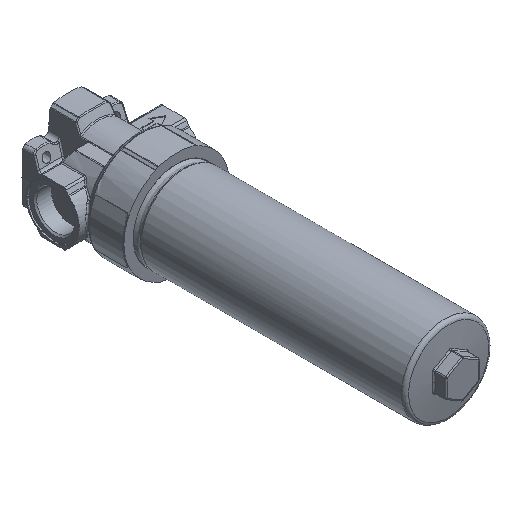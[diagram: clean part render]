
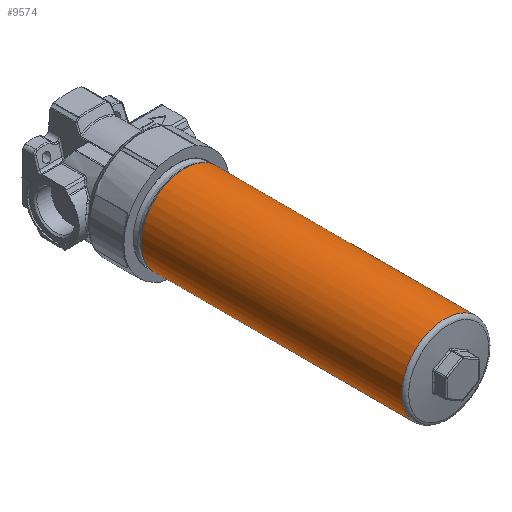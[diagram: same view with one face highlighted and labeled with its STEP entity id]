
A CAD part, isometric view. The second image highlights one B-rep face of the part: STEP entity #9574.
In plain terms, the highlighted free-form (B-spline) face has degree [2, 1] with [7, 2] control points.
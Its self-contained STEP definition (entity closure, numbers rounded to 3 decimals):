
#9464=CARTESIAN_POINT('V492',(-35.0,-220.024,0.0));
#9465=VERTEX_POINT('V492',#9464);
#9479=CARTESIAN_POINT('E842',(-35.0,-220.024,0.0));
#9480=CARTESIAN_POINT('E842',(-35.0,-220.024,
   1.718));
#9481=CARTESIAN_POINT('E842',(-34.746,
   -220.024,5.156));
#9482=CARTESIAN_POINT('E842',(-33.613,
   -220.024,10.199));
#9483=CARTESIAN_POINT('E842',(-31.752,
   -220.024,15.023));
#9484=CARTESIAN_POINT('E842',(-29.204,
   -220.024,19.52));
#9485=CARTESIAN_POINT('E842',(-26.023,
   -220.024,23.595));
#9486=CARTESIAN_POINT('E842',(-22.278,
   -220.024,27.159));
#9487=CARTESIAN_POINT('E842',(-18.05,
   -220.024,30.134));
#9488=CARTESIAN_POINT('E842',(-13.018,
   -220.024,32.666));
#9489=CARTESIAN_POINT('E842',(-7.181,
   -220.024,34.464));
#9490=CARTESIAN_POINT('E842',(-0.65,
   -220.024,35.199));
#9491=CARTESIAN_POINT('E842',(5.904,-220.024,
   34.706));
#9492=CARTESIAN_POINT('E842',(12.515,
   -220.024,32.933));
#9493=CARTESIAN_POINT('E842',(18.9,
   -220.024,29.766));
#9494=CARTESIAN_POINT('E842',(24.569,
   -220.024,25.266));
#9495=CARTESIAN_POINT('E842',(29.104,
   -220.024,19.845));
#9496=CARTESIAN_POINT('E842',(32.416,
   -220.024,13.786));
#9497=CARTESIAN_POINT('E842',(34.483,
   -220.024,7.197));
#9498=CARTESIAN_POINT('E842',(35.217,
   -220.024,0.396));
#9499=CARTESIAN_POINT('E842',(34.635,
   -220.024,-6.353));
#9500=CARTESIAN_POINT('E842',(32.802,
   -220.024,-12.807));
#9501=CARTESIAN_POINT('E842',(29.777,
   -220.024,-18.796));
#9502=CARTESIAN_POINT('E842',(25.716,
   -220.024,-24.045));
#9503=CARTESIAN_POINT('E842',(20.803,
   -220.024,-28.394));
#9504=CARTESIAN_POINT('E842',(15.237,
   -220.024,-31.731));
#9505=CARTESIAN_POINT('E842',(9.153,-220.024,
   -33.988));
#9506=CARTESIAN_POINT('E842',(1.877,-220.024,
   -35.244));
#9507=CARTESIAN_POINT('E842',(-6.428,
   -220.024,-34.812));
#9508=CARTESIAN_POINT('E842',(-14.325,
   -220.024,-32.254));
#9509=CARTESIAN_POINT('E842',(-20.649,
   -220.024,-28.503));
#9510=CARTESIAN_POINT('E842',(-25.559,
   -220.024,-24.208));
#9511=CARTESIAN_POINT('E842',(-29.637,
   -220.024,-19.013));
#9512=CARTESIAN_POINT('E842',(-32.696,
   -220.024,-13.069));
#9513=CARTESIAN_POINT('E842',(-34.577,
   -220.024,-6.655));
#9514=CARTESIAN_POINT('E842',(-35.0,-220.024,
   -2.217));
#9515=CARTESIAN_POINT('E842',(-35.0,-220.024,0.0));
#9516=B_SPLINE_CURVE_WITH_KNOTS('E842',3,(#9479,#9480,#9481,#9482,
   #9483,#9484,#9485,#9486,#9487,#9488,#9489,#9490,#9491,#9492,#9493,
   #9494,#9495,#9496,#9497,#9498,#9499,#9500,#9501,#9502,#9503,#9504,
   #9505,#9506,#9507,#9508,#9509,#9510,#9511,#9512,#9513,#9514,#9515),
   .UNSPECIFIED.,.T.,.U.,(4,1,1,1,1,1,1,1,1,1,1,1,1,1,1,1,1,1,1,1,1,
   1,1,1,1,1,1,1,1,1,1,1,1,1,4),(2.0,3.059,
   4.118,5.177,6.235,
   7.294,8.353,9.412,
   10.471,11.815,13.158,
   14.502,15.846,17.357,
   18.868,20.28,21.691,
   23.102,24.513,25.885,
   27.256,28.627,29.999,
   31.326,32.653,33.98,
   35.307,37.182,39.058,
   40.375,41.693,43.06,
   44.426,45.793,47.159),
   .UNSPECIFIED.);
#9517=EDGE_CURVE('E842',#9465,#9465,#9516,.T.);
#9524=CARTESIAN_POINT('F379',(-35.0,-10.438,0.0));
#9525=CARTESIAN_POINT('F379',(-35.0,-10.438,
   -60.622));
#9526=CARTESIAN_POINT('F379',(17.5,-10.438,
   -30.311));
#9527=CARTESIAN_POINT('F379',(70.0,-10.438,
   0.));
#9528=CARTESIAN_POINT('F379',(17.5,-10.438,
   30.311));
#9529=CARTESIAN_POINT('F379',(-35.0,-10.438,
   60.622));
#9530=CARTESIAN_POINT('F379',(-35.0,-10.438,0.0));
#9531=CARTESIAN_POINT('F379',(-35.0,-222.773,0.0));
#9532=CARTESIAN_POINT('F379',(-35.0,-222.773,
   -60.622));
#9533=CARTESIAN_POINT('F379',(17.5,
   -222.773,-30.311));
#9534=CARTESIAN_POINT('F379',(70.0,-222.773,
   0.));
#9535=CARTESIAN_POINT('F379',(17.5,
   -222.773,30.311));
#9536=CARTESIAN_POINT('F379',(-35.0,-222.773,
   60.622));
#9537=CARTESIAN_POINT('F379',(-35.0,-222.773,0.0));
#9545=(BOUNDED_SURFACE()B_SPLINE_SURFACE(2,1,((#9524,#9531),(
   #9525,#9532),(#9526,#9533),(#9527,#9534),(#9528,#9535),(
   #9529,#9536),(#9530,#9537)),.CYLINDRICAL_SURF.,.T.,.F.,.U.)
   B_SPLINE_SURFACE_WITH_KNOTS((3,2,2,3),(2,2),(0.0,
   0.571,1.142,1.713),(0.0,1.0),
   .UNSPECIFIED.)GEOMETRIC_REPRESENTATION_ITEM()
   RATIONAL_B_SPLINE_SURFACE(((1.0,1.0),(0.5,
   0.5),(1.0,1.0),(0.5,
   0.5),(1.0,1.0),(0.5,
   0.5),(1.0,1.0)))REPRESENTATION_ITEM('F379')
   SURFACE());
#9546=ORIENTED_EDGE('E842',*,*,#9517,.T.);
#9547=CARTESIAN_POINT('V537',(-35.0,-10.438,0.0));
#9548=VERTEX_POINT('V537',#9547);
#9549=CARTESIAN_POINT('E932',(-35.0,-220.024,0.0));
#9550=CARTESIAN_POINT('E932',(-35.0,-10.438,0.0));
#9551=B_SPLINE_CURVE_WITH_KNOTS('E932',1,(#9549,#9550),
   .POLYLINE_FORM.,.F.,.U.,(2,2),(0.013,1.0),
   .UNSPECIFIED.);
#9552=EDGE_CURVE('E932',#9465,#9548,#9551,.T.);
#9553=ORIENTED_EDGE('E932',*,*,#9552,.T.);
#9554=CARTESIAN_POINT('E933',(-35.0,-10.438,0.0));
#9555=CARTESIAN_POINT('E933',(-35.0,-10.438,
   -60.622));
#9556=CARTESIAN_POINT('E933',(17.5,-10.438,
   -30.311));
#9557=CARTESIAN_POINT('E933',(70.0,-10.438,
   0.));
#9558=CARTESIAN_POINT('E933',(17.5,-10.438,
   30.311));
#9559=CARTESIAN_POINT('E933',(-35.0,-10.438,
   60.622));
#9560=CARTESIAN_POINT('E933',(-35.0,-10.438,0.0));
#9568=(BOUNDED_CURVE()B_SPLINE_CURVE(2,(#9554,#9555,#9556,#9557,
   #9558,#9559,#9560),.CIRCULAR_ARC.,.T.,.U.)
   B_SPLINE_CURVE_WITH_KNOTS((3,2,2,3),(0.0,0.571,
   1.142,1.713),.UNSPECIFIED.)CURVE()
   GEOMETRIC_REPRESENTATION_ITEM()RATIONAL_B_SPLINE_CURVE((1.0,
   0.5,1.0,0.5,1.0,0.5,1.0)
   )REPRESENTATION_ITEM('E933'));
#9569=EDGE_CURVE('E933',#9548,#9548,#9568,.T.);
#9570=ORIENTED_EDGE('E933',*,*,#9569,.T.);
#9571=ORIENTED_EDGE('E932',*,*,#9552,.F.);
#9572=EDGE_LOOP('F379',(#9546,#9553,#9570,#9571));
#9573=FACE_OUTER_BOUND('F379',#9572,.T.);
#9574=ADVANCED_FACE('F379',(#9573),#9545,.T.);
